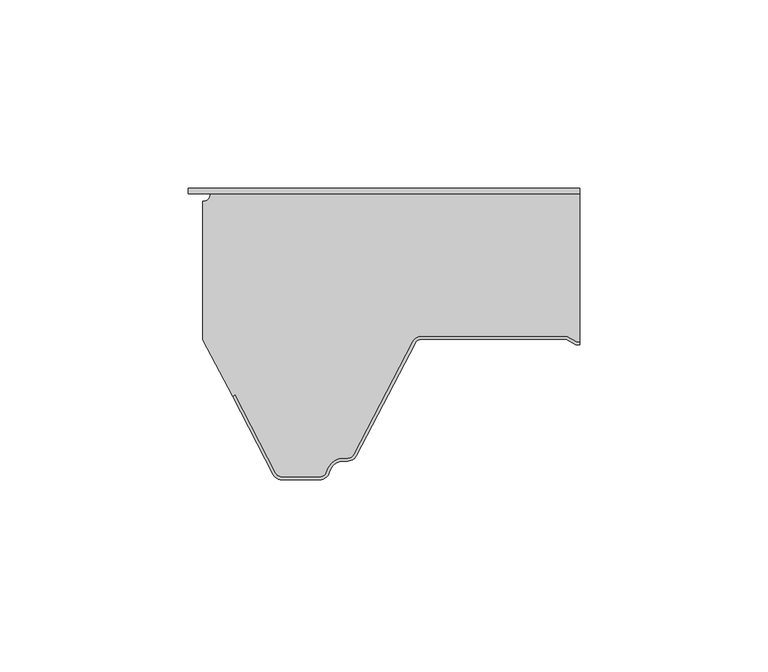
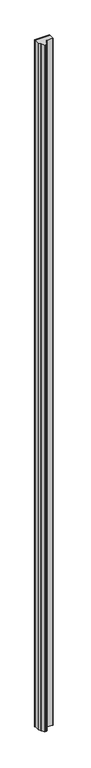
"""IFC4 building model written with IfcOpenShell, lengths in millimetres: plate geometry, Paneles-Sándwich-Madera_PALDR-AC_Curtain-Panel : PALDR AC 40/15."""

from ifc_helpers import new_model, si_unit, frame, origin, origin_with_axes, place, context, project, spatial, polyline, circle_curve, outline, extrude, source, transform, mapped, element, save
from ifc_brep_helpers import plane_surface, cylinder_surface, revolved_surface, advanced_brep


def plate_8ebf9e64(model_context):
    return source(origin(), model_context, "Body", "SolidModel", [
        extrude(outline(polyline([(-53.88, -1.5), (-53.88, 0.0), (50.0, 0.0), (50.0, -1.5), (-53.88, -1.5)])), origin_with_axes(), (0.0, 0.0, 1.0), 5000.0),
        advanced_brep(
        [(-30.6207387, -75.6314818, 0.0), (-41.4414179, -54.855778, 0.0), (-42.1509492, -55.2253256, 0.0), (-50.0, -40.1551481, 0.0), (-50.0, -3.45, 0.0), (-48.05, -1.5, 0.0), (50.0, -1.5, 0.0), (50.0, -40.7, 0.0), (49.2107961, -40.7, 0.0), (46.6127185, -39.2, 0.0), (8.090871, -39.2, 0.0), (5.6075115, -40.7065836, 0.0), (-9.9783733, -70.6314825, 0.0), (-11.574819, -71.6, 0.0), (-12.6272901, -71.6, 0.0), (-17.2841077, -75.2363636, 0.0), (-19.030414, -76.5999997, 0.0), (-29.024293, -76.5999997, 0.0), (-30.6207383, -75.6314813, 5000.0), (-29.024293, -76.5999997, 5000.0), (-19.030414, -76.5999997, 5000.0), (-17.2841077, -75.2363636, 5000.0), (-12.6272901, -71.6, 5000.0), (-11.574819, -71.6, 5000.0), (-9.9783737, -70.631482, 5000.0), (5.6075107, -40.7065835, 5000.0), (8.090871, -39.2, 5000.0), (46.6127185, -39.2, 5000.0), (49.2107961, -40.7, 5000.0), (50.0, -40.7, 5000.0), (50.0, -1.5, 5000.0), (-48.05, -1.5, 5000.0), (-50.0, -3.45, 5000.0), (-50.0, -40.1551481, 5000.0), (-42.1509492, -55.2253256, 5000.0), (-41.4414179, -54.855778, 5000.0)],
        [
            (0, 1),
            (1, 2),
            (2, 3),
            (3, 4),
            (4, 5, circle_curve(frame((-50.0, -1.5, 0.0), z_axis=(0.0, 0.0, 1.0), x_axis=(-1.0, 0.0, 0.0)), 1.95)),
            (5, 6),
            (6, 7),
            (7, 8),
            (8, 9),
            (9, 10),
            (10, 11, circle_curve(frame((8.090871, -42.0, 0.0), z_axis=(0.0, 0.0, 1.0), x_axis=(-1.0, 0.0, 0.0)), 2.8)),
            (11, 12),
            (12, 13, circle_curve(frame((-11.574819, -69.8, 0.0), z_axis=(0.0, 0.0, -1.0), x_axis=(-1.0, 0.0, 0.0)), 1.8)),
            (13, 14),
            (14, 15, circle_curve(frame((-12.6272901, -76.4, 0.0), z_axis=(0.0, 0.0, 1.0), x_axis=(-1.0, 0.0, 0.0)), 4.8)),
            (15, 16, circle_curve(frame((-19.030414, -74.8, 0.0), z_axis=(0.0, 0.0, -1.0), x_axis=(-1.0, 0.0, 0.0)), 1.7999997)),
            (16, 17),
            (17, 0, circle_curve(frame((-29.024293, -74.8, 0.0), z_axis=(0.0, 0.0, -1.0), x_axis=(-1.0, 0.0, 0.0)), 1.7999997)),
            (18, 19, circle_curve(frame((-29.024293, -74.8, 5000.0), z_axis=(0.0, 0.0, 1.0), x_axis=(-1.0, 0.0, 0.0)), 1.7999997)),
            (19, 20),
            (20, 21, circle_curve(frame((-19.030414, -74.8, 5000.0), z_axis=(0.0, 0.0, 1.0), x_axis=(-1.0, 0.0, 0.0)), 1.7999997)),
            (21, 22, circle_curve(frame((-12.6272901, -76.4, 5000.0), z_axis=(0.0, 0.0, -1.0), x_axis=(-1.0, 0.0, 0.0)), 4.8)),
            (22, 23),
            (23, 24, circle_curve(frame((-11.574819, -69.8, 5000.0), z_axis=(0.0, 0.0, 1.0), x_axis=(-1.0, 0.0, 0.0)), 1.8)),
            (24, 25),
            (25, 26, circle_curve(frame((8.090871, -42.0, 5000.0), z_axis=(0.0, 0.0, -1.0), x_axis=(-1.0, 0.0, 0.0)), 2.8)),
            (26, 27),
            (27, 28),
            (28, 29),
            (29, 30),
            (30, 31),
            (31, 32, circle_curve(frame((-50.0, -1.5, 5000.0), z_axis=(0.0, 0.0, -1.0), x_axis=(-1.0, 0.0, 0.0)), 1.95)),
            (32, 33),
            (33, 34),
            (34, 35),
            (35, 18),
            (0, 18),
            (35, 1),
            (34, 2),
            (33, 3),
            (32, 4),
            (5, 31),
            (30, 6),
            (28, 8),
            (7, 29),
            (27, 9),
            (26, 10),
            (25, 11),
            (24, 12),
            (23, 13),
            (22, 14),
            (21, 15),
            (20, 16),
            (19, 17),
        ],
        [
            plane_surface(frame((-50.0, 0.0, 0.0), z_axis=(0.0, 0.0, -1.0), x_axis=(0.0, 1.0, 0.0))),
            plane_surface(frame((-50.0, 0.0, 5000.0), z_axis=(0.0, 0.0, 1.0), x_axis=(0.0, 1.0, 0.0))),
            plane_surface(frame((-30.6207387, -75.6314818, 0.0), z_axis=(-0.8869140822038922, -0.46193442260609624, 0.0), x_axis=(0.0, 0.0, 1.0))),
            plane_surface(frame((-41.4414179, -54.855778, 0.0), z_axis=(0.4619344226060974, -0.8869140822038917, 0.0), x_axis=(0.0, 0.0, 1.0))),
            plane_surface(frame((-42.1509492, -55.2253256, 0.0), z_axis=(-0.8869140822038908, -0.4619344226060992, 0.0), x_axis=(0.0, 0.0, 1.0))),
            plane_surface(frame((-50.0, -40.1551481, 0.0), z_axis=(-1.0, 0.0, 0.0), x_axis=(0.0, 0.0, 1.0))),
            plane_surface(frame((-48.05, -1.5, 0.0), z_axis=(0.0, 1.0, 0.0), x_axis=(0.0, 0.0, 1.0))),
            plane_surface(frame((81.5859248, -40.7, 0.0), z_axis=(0.0, -1.0, 0.0), x_axis=(0.0, 0.0, 1.0))),
            plane_surface(frame((49.2107961, -40.7, 0.0), z_axis=(-0.4999997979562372, -0.866025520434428, 0.0), x_axis=(0.0, 0.0, 1.0))),
            plane_surface(frame((46.6127185, -39.2, 0.0), z_axis=(0.0, -1.0, 0.0), x_axis=(0.0, 0.0, 1.0))),
            revolved_surface(polyline([(5.290871, -42.0, 5000.0), (5.290871, -42.0, 0.0)]), (8.090871, -42.0, 0.0), (0.0, 0.0, 1.0)),
            plane_surface(frame((5.6075107, -40.7065835, 0.0), z_axis=(0.886914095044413, -0.46193439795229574, 0.0), x_axis=(0.0, 0.0, 1.0))),
            cylinder_surface(frame((-11.574819, -69.8, 0.0), z_axis=(0.0, 0.0, -1.0), x_axis=(-1.0, 0.0, 0.0)), 1.8),
            plane_surface(frame((-11.574819, -71.6, 0.0), z_axis=(0.0, -1.0, 0.0), x_axis=(0.0, 0.0, 1.0))),
            revolved_surface(polyline([(-17.4272901, -76.4, 5000.0), (-17.4272901, -76.4, 0.0)]), (-12.6272901, -76.4, 0.0), (0.0, 0.0, 1.0)),
            cylinder_surface(frame((-19.030414, -74.8, 0.0), z_axis=(0.0, 0.0, -1.0), x_axis=(-1.0, 0.0, 0.0)), 1.7999997),
            plane_surface(frame((-19.030414, -76.5999997, 0.0), z_axis=(0.0, -1.0, 0.0), x_axis=(0.0, 0.0, 1.0))),
            cylinder_surface(frame((-29.024293, -74.8, 0.0), z_axis=(0.0, 0.0, -1.0), x_axis=(-1.0, 0.0, 0.0)), 1.7999997),
            revolved_surface(polyline([(-51.95, -1.5, 5000.0), (-51.95, -1.5, 0.0)]), (-50.0, -1.5, 0.0), (0.0, 0.0, 1.0)),
            plane_surface(frame((50.0, 0.0, 5000.0), z_axis=(1.0, 0.0, 0.0), x_axis=(0.0, 0.0, -1.0))),
        ],
        [
            (0, [[1, 2, 3, 4, 5, 6, 7, 8, 9, 10, 11, 12, 13, 14, 15, 16, 17, 18]]),
            (1, [[19, 20, 21, 22, 23, 24, 25, 26, 27, 28, 29, 30, 31, 32, 33, 34, 35, 36]]),
            (2, [[-1, 37, -36, 38]]),
            (3, [[-2, -38, -35, 39]]),
            (4, [[-3, -39, -34, 40]]),
            (5, [[-4, -40, -33, 41]]),
            (6, [[42, -31, 43, -6]]),
            (7, [[44, -8, 45, -29]]),
            (8, [[-9, -44, -28, 46]]),
            (9, [[-10, -46, -27, 47]]),
            (10, [[-11, -47, -26, 48]]),
            (11, [[-12, -48, -25, 49]]),
            (12, [[-13, -49, -24, 50]]),
            (13, [[-14, -50, -23, 51]]),
            (14, [[-15, -51, -22, 52]]),
            (15, [[-16, -52, -21, 53]]),
            (16, [[-17, -53, -20, 54]]),
            (17, [[-18, -54, -19, -37]]),
            (18, [[-5, -41, -32, -42]]),
            (19, [[-7, -43, -30, -45]]),
        ],
    ),
        advanced_brep(
        [(49.2107962, -40.7, 5000.0), (46.6127186, -39.2, 5000.0), (8.090871, -39.2, 5000.0), (5.6075116, -40.7065836, 5000.0), (-9.9783733, -70.6314825, 5000.0), (-11.574819, -71.6, 5000.0), (-12.62729, -71.6, 5000.0), (-17.2841076, -75.2363636, 5000.0), (-19.030414, -76.6, 5000.0), (-29.024293, -76.6, 5000.0), (-30.6207383, -75.631482, 5000.0), (-41.4404688, -54.8576004, 5000.0), (-42.15, -55.227148, 5000.0), (-31.33027, -76.00103, 5000.0), (-29.024293, -77.4, 5000.0), (-19.030414, -77.4, 5000.0), (-16.5079711, -75.4303031, 5000.0), (-12.62729, -72.4, 5000.0), (-11.574819, -72.4, 5000.0), (-9.2688424, -71.0010295, 5000.0), (6.317042, -41.076131, 5000.0), (8.090871, -40.0, 5000.0), (46.3983593, -40.0, 5000.0), (48.9964369, -41.5, 5000.0), (50.0, -41.5, 5000.0), (50.0, -40.7, 5000.0), (48.9964369, -41.5, 0.0), (46.3983593, -40.0, 0.0), (8.090871, -40.0, 0.0), (6.3170428, -41.0761312, 0.0), (-9.268842, -71.00103, 0.0), (-11.574819, -72.4, 0.0), (-12.62729, -72.4, 0.0), (-16.5079713, -75.430303, 0.0), (-19.030414, -77.4, 0.0), (-29.024293, -77.4, 0.0), (-31.3302696, -76.0010295, 0.0), (-42.15, -55.227148, 0.0), (-41.4404688, -54.8576004, 0.0), (-30.6207387, -75.6314825, 0.0), (-29.024293, -76.6, 0.0), (-19.030414, -76.6, 0.0), (-17.2841074, -75.2363637, 0.0), (-12.62729, -71.6, 0.0), (-11.574819, -71.6, 0.0), (-9.9783737, -70.631482, 0.0), (5.6075107, -40.7065835, 0.0), (8.090871, -39.2, 0.0), (46.6127186, -39.2, 0.0), (49.2107962, -40.7, 0.0), (50.0, -40.7, 0.0), (50.0, -41.5, 0.0)],
        [
            (0, 1),
            (1, 2),
            (2, 3, circle_curve(frame((8.090871, -42.0, 5000.0), z_axis=(0.0, 0.0, 1.0), x_axis=(1.0, 0.0, 0.0)), 2.8)),
            (3, 4),
            (4, 5, circle_curve(frame((-11.574819, -69.8, 5000.0), z_axis=(0.0, 0.0, -1.0), x_axis=(1.0, 0.0, 0.0)), 1.8)),
            (5, 6),
            (6, 7, circle_curve(frame((-12.62729, -76.4, 5000.0), z_axis=(0.0, 0.0, 1.0), x_axis=(1.0, 0.0, 0.0)), 4.8)),
            (7, 8, circle_curve(frame((-19.030414, -74.8, 5000.0), z_axis=(0.0, 0.0, -1.0), x_axis=(1.0, 0.0, 0.0)), 1.8)),
            (8, 9),
            (9, 10, circle_curve(frame((-29.024293, -74.8, 5000.0), z_axis=(0.0, 0.0, -1.0), x_axis=(1.0, 0.0, 0.0)), 1.8)),
            (10, 11),
            (11, 12),
            (12, 13),
            (13, 14, circle_curve(frame((-29.024293, -74.8, 5000.0), z_axis=(0.0, 0.0, 1.0), x_axis=(1.0, 0.0, 0.0)), 2.6)),
            (14, 15),
            (15, 16, circle_curve(frame((-19.030414, -74.8, 5000.0), z_axis=(0.0, 0.0, 1.0), x_axis=(1.0, 0.0, 0.0)), 2.6)),
            (16, 17, circle_curve(frame((-12.62729, -76.4, 5000.0), z_axis=(0.0, 0.0, -1.0), x_axis=(1.0, 0.0, 0.0)), 4.0)),
            (17, 18),
            (18, 19, circle_curve(frame((-11.574819, -69.8, 5000.0), z_axis=(0.0, 0.0, 1.0), x_axis=(1.0, 0.0, 0.0)), 2.6)),
            (19, 20),
            (20, 21, circle_curve(frame((8.090871, -42.0, 5000.0), z_axis=(0.0, 0.0, -1.0), x_axis=(1.0, 0.0, 0.0)), 2.0)),
            (21, 22),
            (22, 23),
            (23, 24),
            (24, 25),
            (25, 0),
            (26, 27),
            (27, 28),
            (28, 29, circle_curve(frame((8.090871, -42.0, 0.0), z_axis=(0.0, 0.0, 1.0), x_axis=(1.0, 0.0, 0.0)), 2.0)),
            (29, 30),
            (30, 31, circle_curve(frame((-11.574819, -69.8, 0.0), z_axis=(0.0, 0.0, -1.0), x_axis=(1.0, 0.0, 0.0)), 2.6)),
            (31, 32),
            (32, 33, circle_curve(frame((-12.62729, -76.4, 0.0), z_axis=(0.0, 0.0, 1.0), x_axis=(1.0, 0.0, 0.0)), 4.0)),
            (33, 34, circle_curve(frame((-19.030414, -74.8, 0.0), z_axis=(0.0, 0.0, -1.0), x_axis=(1.0, 0.0, 0.0)), 2.6)),
            (34, 35),
            (35, 36, circle_curve(frame((-29.024293, -74.8, 0.0), z_axis=(0.0, 0.0, -1.0), x_axis=(1.0, 0.0, 0.0)), 2.6)),
            (36, 37),
            (37, 38),
            (38, 39),
            (39, 40, circle_curve(frame((-29.024293, -74.8, 0.0), z_axis=(0.0, 0.0, 1.0), x_axis=(1.0, 0.0, 0.0)), 1.8)),
            (40, 41),
            (41, 42, circle_curve(frame((-19.030414, -74.8, 0.0), z_axis=(0.0, 0.0, 1.0), x_axis=(1.0, 0.0, 0.0)), 1.8)),
            (42, 43, circle_curve(frame((-12.62729, -76.4, 0.0), z_axis=(0.0, 0.0, -1.0), x_axis=(1.0, 0.0, 0.0)), 4.8)),
            (43, 44),
            (44, 45, circle_curve(frame((-11.574819, -69.8, 0.0), z_axis=(0.0, 0.0, 1.0), x_axis=(1.0, 0.0, 0.0)), 1.8)),
            (45, 46),
            (46, 47, circle_curve(frame((8.090871, -42.0, 0.0), z_axis=(0.0, 0.0, -1.0), x_axis=(1.0, 0.0, 0.0)), 2.8)),
            (47, 48),
            (48, 49),
            (49, 50),
            (50, 51),
            (51, 26),
            (49, 0),
            (25, 50),
            (48, 1),
            (47, 2),
            (46, 3),
            (45, 4),
            (44, 5),
            (43, 6),
            (42, 7),
            (41, 8),
            (40, 9),
            (39, 10),
            (38, 11),
            (37, 12),
            (36, 13),
            (35, 14),
            (34, 15),
            (33, 16),
            (32, 17),
            (31, 18),
            (30, 19),
            (29, 20),
            (28, 21),
            (27, 22),
            (26, 23),
            (51, 24),
        ],
        [
            plane_surface(frame((-50.0, -40.0, 5000.0), z_axis=(0.0, 0.0, 1.0), x_axis=(0.0, 1.0, 0.0))),
            plane_surface(frame((-50.0, -40.0, 0.0), z_axis=(0.0, 0.0, -1.0), x_axis=(0.0, 1.0, 0.0))),
            plane_surface(frame((81.5859248, -40.7, 5000.0), z_axis=(0.0, 1.0, 0.0), x_axis=(0.0, 0.0, -1.0))),
            plane_surface(frame((49.2107962, -40.7, 5000.0), z_axis=(0.4999997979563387, 0.8660255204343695, 0.0), x_axis=(0.0, 0.0, -1.0))),
            plane_surface(frame((46.6127186, -39.2, 5000.0), z_axis=(0.0, 1.0, 0.0), x_axis=(0.0, 0.0, -1.0))),
            cylinder_surface(frame((8.090871, -42.0, 5000.0), z_axis=(0.0, 0.0, 1.0), x_axis=(1.0, 0.0, 0.0)), 2.8),
            plane_surface(frame((5.6075107, -40.7065835, 5000.0), z_axis=(-0.8869140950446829, 0.4619343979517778, 0.0), x_axis=(0.0, 0.0, -1.0))),
            revolved_surface(polyline([(-9.774818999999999, -69.8, 0.0), (-9.774818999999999, -69.8, 5000.0)]), (-11.574819, -69.8, 5000.0), (0.0, 0.0, -1.0)),
            plane_surface(frame((-11.574819, -71.6, 5000.0), z_axis=(0.0, 1.0, 0.0), x_axis=(0.0, 0.0, -1.0))),
            cylinder_surface(frame((-12.62729, -76.4, 5000.0), z_axis=(0.0, 0.0, 1.0), x_axis=(1.0, 0.0, 0.0)), 4.8),
            revolved_surface(polyline([(-17.230414, -74.8, 0.0), (-17.230414, -74.8, 5000.0)]), (-19.030414, -74.8, 5000.0), (0.0, 0.0, -1.0)),
            plane_surface(frame((-19.030414, -76.6, 5000.0), z_axis=(0.0, 1.0, 0.0), x_axis=(0.0, 0.0, -1.0))),
            revolved_surface(polyline([(-27.224293, -74.8, 0.0), (-27.224293, -74.8, 5000.0)]), (-29.024293, -74.8, 5000.0), (0.0, 0.0, -1.0)),
            plane_surface(frame((-30.6207387, -75.6314825, 5000.0), z_axis=(0.8869140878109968, 0.46193441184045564, 0.0), x_axis=(0.0, 0.0, -1.0))),
            plane_surface(frame((-41.4404688, -54.8576004, 5000.0), z_axis=(-0.46193450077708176, 0.8869140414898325, 0.0), x_axis=(0.0, 0.0, -1.0))),
            plane_surface(frame((-42.15, -55.227148, 5000.0), z_axis=(-0.8869140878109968, -0.46193441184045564, 0.0), x_axis=(0.0, 0.0, -1.0))),
            cylinder_surface(frame((-29.024293, -74.8, 5000.0), z_axis=(0.0, 0.0, 1.0), x_axis=(1.0, 0.0, 0.0)), 2.6),
            plane_surface(frame((-29.024293, -77.4, 5000.0), z_axis=(0.0, -1.0, 0.0), x_axis=(0.0, 0.0, -1.0))),
            cylinder_surface(frame((-19.030414, -74.8, 5000.0), z_axis=(0.0, 0.0, 1.0), x_axis=(1.0, 0.0, 0.0)), 2.6),
            revolved_surface(polyline([(-8.62729, -76.4, 0.0), (-8.62729, -76.4, 5000.0)]), (-12.62729, -76.4, 5000.0), (0.0, 0.0, -1.0)),
            plane_surface(frame((-12.62729, -72.4, 5000.0), z_axis=(0.0, -1.0, 0.0), x_axis=(0.0, 0.0, -1.0))),
            cylinder_surface(frame((-11.574819, -69.8, 5000.0), z_axis=(0.0, 0.0, 1.0), x_axis=(1.0, 0.0, 0.0)), 2.6),
            plane_surface(frame((-9.268842, -71.00103, 5000.0), z_axis=(0.8869140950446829, -0.4619343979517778, 0.0), x_axis=(0.0, 0.0, -1.0))),
            revolved_surface(polyline([(10.090871, -42.0, 0.0), (10.090871, -42.0, 5000.0)]), (8.090871, -42.0, 5000.0), (0.0, 0.0, -1.0)),
            plane_surface(frame((8.090871, -40.0, 5000.0), z_axis=(0.0, -1.0, 0.0), x_axis=(0.0, 0.0, -1.0))),
            plane_surface(frame((46.3983593, -40.0, 5000.0), z_axis=(-0.4999997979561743, -0.8660255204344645, 0.0), x_axis=(0.0, 0.0, -1.0))),
            plane_surface(frame((48.9964369, -41.5, 5000.0), z_axis=(0.0, -1.0, 0.0), x_axis=(0.0, 0.0, -1.0))),
            plane_surface(frame((50.0, 0.0, 5000.0), z_axis=(1.0, 0.0, 0.0), x_axis=(0.0, 0.0, -1.0))),
        ],
        [
            (0, [[1, 2, 3, 4, 5, 6, 7, 8, 9, 10, 11, 12, 13, 14, 15, 16, 17, 18, 19, 20, 21, 22, 23, 24, 25, 26]]),
            (1, [[27, 28, 29, 30, 31, 32, 33, 34, 35, 36, 37, 38, 39, 40, 41, 42, 43, 44, 45, 46, 47, 48, 49, 50, 51, 52]]),
            (2, [[53, -26, 54, -50]]),
            (3, [[-1, -53, -49, 55]]),
            (4, [[-2, -55, -48, 56]]),
            (5, [[-3, -56, -47, 57]]),
            (6, [[-4, -57, -46, 58]]),
            (7, [[-5, -58, -45, 59]]),
            (8, [[-6, -59, -44, 60]]),
            (9, [[-7, -60, -43, 61]]),
            (10, [[-8, -61, -42, 62]]),
            (11, [[-9, -62, -41, 63]]),
            (12, [[-10, -63, -40, 64]]),
            (13, [[-11, -64, -39, 65]]),
            (14, [[-12, -65, -38, 66]]),
            (15, [[-13, -66, -37, 67]]),
            (16, [[-14, -67, -36, 68]]),
            (17, [[-15, -68, -35, 69]]),
            (18, [[-16, -69, -34, 70]]),
            (19, [[-17, -70, -33, 71]]),
            (20, [[-18, -71, -32, 72]]),
            (21, [[-19, -72, -31, 73]]),
            (22, [[-20, -73, -30, 74]]),
            (23, [[-21, -74, -29, 75]]),
            (24, [[-22, -75, -28, 76]]),
            (25, [[-23, -76, -27, 77]]),
            (26, [[-77, -52, 78, -24]]),
            (27, [[-25, -78, -51, -54]]),
        ],
    ),
    ])


if __name__ == "__main__":
    model = new_model("IFC4")
    model_context = context("Model", 3, world=origin())
    ifc_project = project(units=[si_unit("LENGTHUNIT", "METRE", prefix="MILLI")], contexts=[model_context])
    site = spatial("IfcSite", under=ifc_project)
    building = spatial("IfcBuilding", under=site)
    placement = place(None, origin())
    plate_shape = plate_8ebf9e64(model_context)
    element("IfcPlate", 1, ObjectType="Paneles-Sándwich-Madera_PALDR-AC_Curtain-Panel : PALDR AC 40/15", at=placement, inside=building, context=model_context, shape_type="MappedRepresentation", body=[
        mapped(plate_shape, transform((0.0, 0.0, 0.0), x_axis=(1.0, 0.0, 0.0), y_axis=(0.0, 1.0, 0.0), z_axis=(0.0, 0.0, 1.0))),
    ])
    save(model, "model.ifc")
